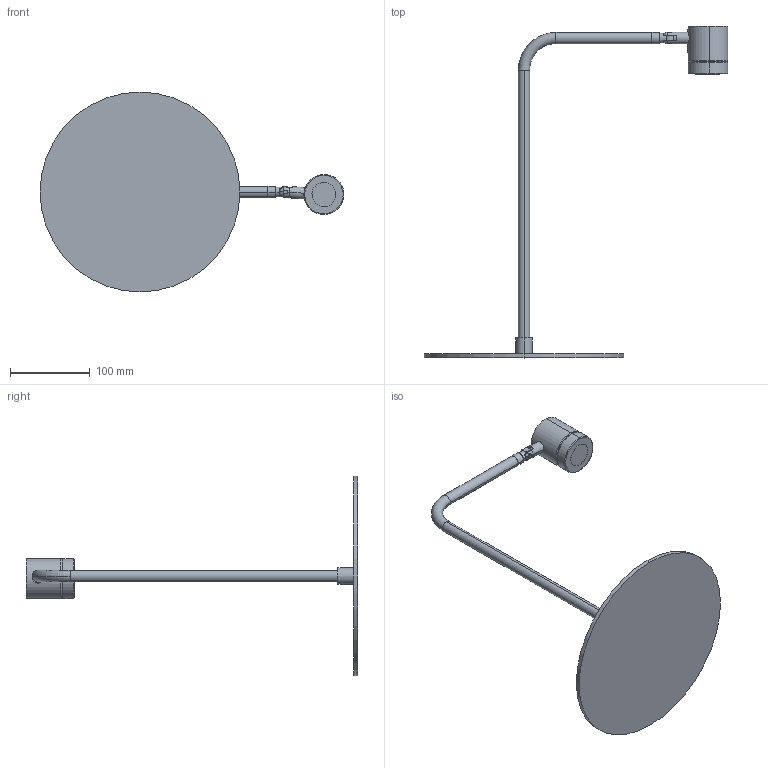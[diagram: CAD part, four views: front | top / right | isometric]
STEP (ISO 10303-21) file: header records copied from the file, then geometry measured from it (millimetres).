
FILE_DESCRIPTION (( 'STEP AP214' ), '1' );
FILE_NAME ('TEA_S1338.STEP', '2024-10-21T11:23:15', ( '' ), ( '' ), 'SwSTEP 2.0', 'SolidWorks 2018', '' );
FILE_SCHEMA (( 'AUTOMOTIVE_DESIGN' ));
Length unit declared in the file: millimetre
Products named in the file (5): regalo; tubo-rotula; TEA_S1338; Rotula2; estructura sobremesa
Assembly tree (4 placements, depth 2):
  TEA_S1338
    estructura sobremesa
    tubo-rotula
    Rotula2
    regalo
Bounding box: 380.06 x 415.11 x 250 mm (x, y, z)
Volume: 431084.9 mm3; surface area: 157832.8 mm2
Topology: 9 solids, 10 shells, 90 faces, 188 edges, 118 vertices
Faces by surface type: cylinder 43, plane 29, torus 16, cone 2
Entity records: 3197 total; most frequent: CARTESIAN_POINT 977, DIRECTION 458, ORIENTED_EDGE 376, AXIS2_PLACEMENT_3D 197, EDGE_CURVE 188, VERTEX_POINT 118, CIRCLE 100, EDGE_LOOP 98
